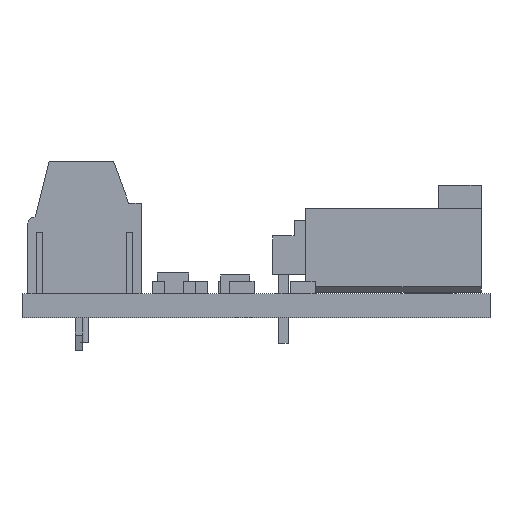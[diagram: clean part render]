
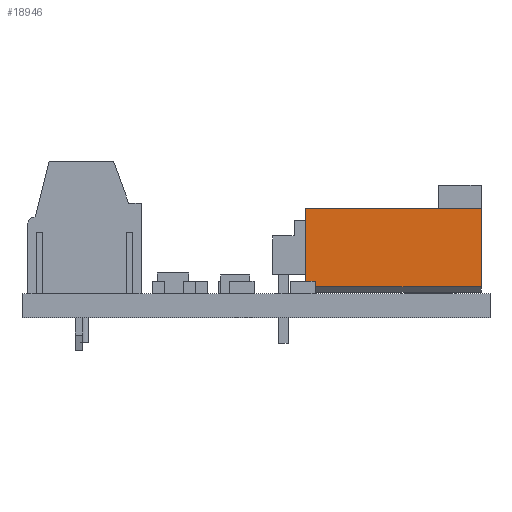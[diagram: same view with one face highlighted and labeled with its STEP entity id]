
A CAD part, front view. The second image highlights one B-rep face of the part: STEP entity #18946.
In plain terms, the highlighted planar face has unit normal (0, -1, 0) as drawn and (-1, 0, 0) by its records, which use the part's own axes.
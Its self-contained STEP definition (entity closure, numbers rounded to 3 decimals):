
#10977 = VERTEX_POINT('',#10978);
#10978 = CARTESIAN_POINT('',(-5.08,-2.54,-5.715));
#10987 = PLANE('',#10988);
#10988 = AXIS2_PLACEMENT_3D('',#10989,#10990,#10991);
#10989 = CARTESIAN_POINT('',(0.,0.,-5.715));
#10990 = DIRECTION('',(0.,0.,1.));
#10991 = DIRECTION('',(1.,0.,0.));
#10999 = PLANE('',#11000);
#11000 = AXIS2_PLACEMENT_3D('',#11001,#11002,#11003);
#11001 = CARTESIAN_POINT('',(-5.08,-2.54,-5.715));
#11002 = DIRECTION('',(0.,-1.,0.));
#11003 = DIRECTION('',(1.,0.,0.));
#11208 = VERTEX_POINT('',#11209);
#11209 = CARTESIAN_POINT('',(-5.08,2.54,-5.715));
#11223 = PLANE('',#11224);
#11224 = AXIS2_PLACEMENT_3D('',#11225,#11226,#11227);
#11225 = CARTESIAN_POINT('',(5.08,2.54,-5.715));
#11226 = DIRECTION('',(0.,1.,0.));
#11227 = DIRECTION('',(-1.,0.,0.));
#11235 = EDGE_CURVE('',#11208,#10977,#11236,.T.);
#11236 = SURFACE_CURVE('',#11237,(#11241,#11248),.PCURVE_S1.);
#11237 = LINE('',#11238,#11239);
#11238 = CARTESIAN_POINT('',(-5.08,2.54,-5.715));
#11239 = VECTOR('',#11240,1.);
#11240 = DIRECTION('',(0.,-1.,0.));
#11241 = PCURVE('',#10987,#11242);
#11242 = DEFINITIONAL_REPRESENTATION('',(#11243),#11247);
#11243 = LINE('',#11244,#11245);
#11244 = CARTESIAN_POINT('',(-5.08,2.54));
#11245 = VECTOR('',#11246,1.);
#11246 = DIRECTION('',(0.,-1.));
#11247 = ( GEOMETRIC_REPRESENTATION_CONTEXT(2) 
PARAMETRIC_REPRESENTATION_CONTEXT() REPRESENTATION_CONTEXT('2D SPACE',''
  ) );
#11248 = PCURVE('',#11249,#11254);
#11249 = PLANE('',#11250);
#11250 = AXIS2_PLACEMENT_3D('',#11251,#11252,#11253);
#11251 = CARTESIAN_POINT('',(-5.08,2.54,-5.715));
#11252 = DIRECTION('',(-1.,0.,0.));
#11253 = DIRECTION('',(0.,-1.,0.));
#11254 = DEFINITIONAL_REPRESENTATION('',(#11255),#11259);
#11255 = LINE('',#11256,#11257);
#11256 = CARTESIAN_POINT('',(0.,0.));
#11257 = VECTOR('',#11258,1.);
#11258 = DIRECTION('',(1.,0.));
#11259 = ( GEOMETRIC_REPRESENTATION_CONTEXT(2) 
PARAMETRIC_REPRESENTATION_CONTEXT() REPRESENTATION_CONTEXT('2D SPACE',''
  ) );
#11417 = PLANE('',#11418);
#11418 = AXIS2_PLACEMENT_3D('',#11419,#11420,#11421);
#11419 = CARTESIAN_POINT('',(0.,0.,5.715));
#11420 = DIRECTION('',(0.,0.,1.));
#11421 = DIRECTION('',(1.,0.,0.));
#11478 = EDGE_CURVE('',#10977,#11479,#11481,.T.);
#11479 = VERTEX_POINT('',#11480);
#11480 = CARTESIAN_POINT('',(-5.08,-2.54,5.715));
#11481 = SURFACE_CURVE('',#11482,(#11486,#11493),.PCURVE_S1.);
#11482 = LINE('',#11483,#11484);
#11483 = CARTESIAN_POINT('',(-5.08,-2.54,-5.715));
#11484 = VECTOR('',#11485,1.);
#11485 = DIRECTION('',(0.,0.,1.));
#11486 = PCURVE('',#10999,#11487);
#11487 = DEFINITIONAL_REPRESENTATION('',(#11488),#11492);
#11488 = LINE('',#11489,#11490);
#11489 = CARTESIAN_POINT('',(0.,0.));
#11490 = VECTOR('',#11491,1.);
#11491 = DIRECTION('',(0.,1.));
#11492 = ( GEOMETRIC_REPRESENTATION_CONTEXT(2) 
PARAMETRIC_REPRESENTATION_CONTEXT() REPRESENTATION_CONTEXT('2D SPACE',''
  ) );
#11493 = PCURVE('',#11249,#11494);
#11494 = DEFINITIONAL_REPRESENTATION('',(#11495),#11499);
#11495 = LINE('',#11496,#11497);
#11496 = CARTESIAN_POINT('',(5.08,0.));
#11497 = VECTOR('',#11498,1.);
#11498 = DIRECTION('',(0.,1.));
#11499 = ( GEOMETRIC_REPRESENTATION_CONTEXT(2) 
PARAMETRIC_REPRESENTATION_CONTEXT() REPRESENTATION_CONTEXT('2D SPACE',''
  ) );
#12121 = EDGE_CURVE('',#12122,#11479,#12124,.T.);
#12122 = VERTEX_POINT('',#12123);
#12123 = CARTESIAN_POINT('',(-5.08,2.54,5.715));
#12124 = SURFACE_CURVE('',#12125,(#12129,#12136),.PCURVE_S1.);
#12125 = LINE('',#12126,#12127);
#12126 = CARTESIAN_POINT('',(-5.08,2.54,5.715));
#12127 = VECTOR('',#12128,1.);
#12128 = DIRECTION('',(0.,-1.,0.));
#12129 = PCURVE('',#11417,#12130);
#12130 = DEFINITIONAL_REPRESENTATION('',(#12131),#12135);
#12131 = LINE('',#12132,#12133);
#12132 = CARTESIAN_POINT('',(-5.08,2.54));
#12133 = VECTOR('',#12134,1.);
#12134 = DIRECTION('',(0.,-1.));
#12135 = ( GEOMETRIC_REPRESENTATION_CONTEXT(2) 
PARAMETRIC_REPRESENTATION_CONTEXT() REPRESENTATION_CONTEXT('2D SPACE',''
  ) );
#12136 = PCURVE('',#11249,#12137);
#12137 = DEFINITIONAL_REPRESENTATION('',(#12138),#12142);
#12138 = LINE('',#12139,#12140);
#12139 = CARTESIAN_POINT('',(0.,11.43));
#12140 = VECTOR('',#12141,1.);
#12141 = DIRECTION('',(1.,0.));
#12142 = ( GEOMETRIC_REPRESENTATION_CONTEXT(2) 
PARAMETRIC_REPRESENTATION_CONTEXT() REPRESENTATION_CONTEXT('2D SPACE',''
  ) );
#17799 = EDGE_CURVE('',#11208,#12122,#17800,.T.);
#17800 = SURFACE_CURVE('',#17801,(#17805,#17812),.PCURVE_S1.);
#17801 = LINE('',#17802,#17803);
#17802 = CARTESIAN_POINT('',(-5.08,2.54,-5.715));
#17803 = VECTOR('',#17804,1.);
#17804 = DIRECTION('',(0.,0.,1.));
#17805 = PCURVE('',#11223,#17806);
#17806 = DEFINITIONAL_REPRESENTATION('',(#17807),#17811);
#17807 = LINE('',#17808,#17809);
#17808 = CARTESIAN_POINT('',(10.16,0.));
#17809 = VECTOR('',#17810,1.);
#17810 = DIRECTION('',(0.,1.));
#17811 = ( GEOMETRIC_REPRESENTATION_CONTEXT(2) 
PARAMETRIC_REPRESENTATION_CONTEXT() REPRESENTATION_CONTEXT('2D SPACE',''
  ) );
#17812 = PCURVE('',#11249,#17813);
#17813 = DEFINITIONAL_REPRESENTATION('',(#17814),#17818);
#17814 = LINE('',#17815,#17816);
#17815 = CARTESIAN_POINT('',(0.,0.));
#17816 = VECTOR('',#17817,1.);
#17817 = DIRECTION('',(0.,1.));
#17818 = ( GEOMETRIC_REPRESENTATION_CONTEXT(2) 
PARAMETRIC_REPRESENTATION_CONTEXT() REPRESENTATION_CONTEXT('2D SPACE',''
  ) );
#18946 = ADVANCED_FACE('',(#18947),#11249,.T.);
#18947 = FACE_BOUND('',#18948,.F.);
#18948 = EDGE_LOOP('',(#18949,#18950,#18951,#18952));
#18949 = ORIENTED_EDGE('',*,*,#11235,.F.);
#18950 = ORIENTED_EDGE('',*,*,#17799,.T.);
#18951 = ORIENTED_EDGE('',*,*,#12121,.T.);
#18952 = ORIENTED_EDGE('',*,*,#11478,.F.);
